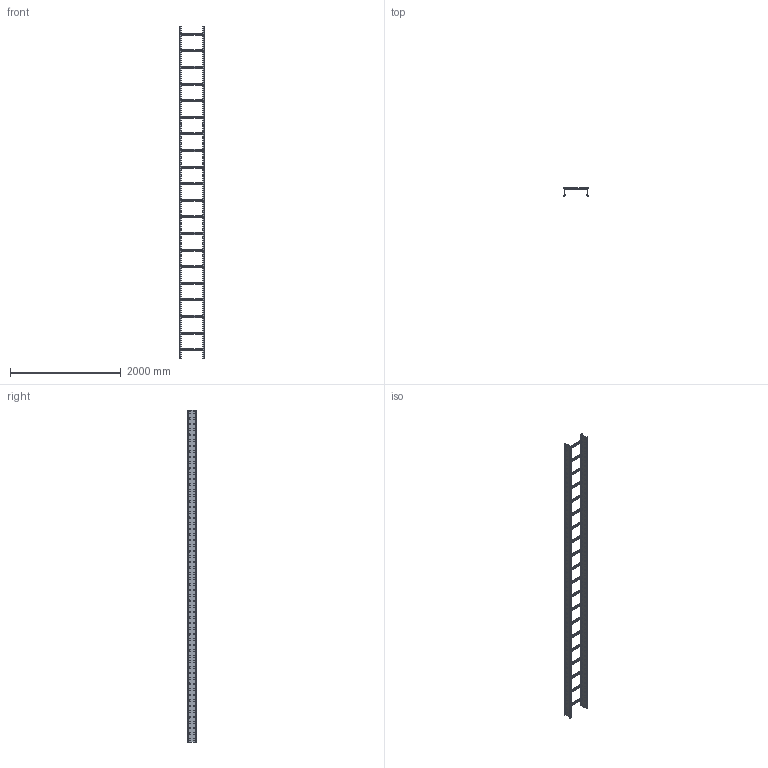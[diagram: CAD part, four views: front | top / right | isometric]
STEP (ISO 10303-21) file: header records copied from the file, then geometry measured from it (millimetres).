
FILE_DESCRIPTION(('Creo Elements/Direct Modeling STEP Export'),'2;1');
FILE_NAME('WP15-40.stp','2016-05-13T13:29:05',(''),(''),'PTC Creo Elements/Direct Modeling STEP processor for AP214 (Solid Model)','PTC Creo Elements/Direct Modeling 19.0C 15-Aug-2015 (C) Parametric Technology GmbH','');
FILE_SCHEMA(('AUTOMOTIVE_DESIGN { 1 0 10303 214 1 1 1 1 }'));
Length unit declared in the file: millimetre
Products named in the file (3): WPH150; WPSP_04; WP15-40-HDG
Assembly tree (22 placements, depth 2):
  WP15-40-HDG
    WPSP_04  x20
    WPH150  x2
Bounding box: 450 x 150 x 6000 mm (x, y, z)
Volume: 5471136.3 mm3; surface area: 6597852.4 mm2
Topology: 22 solids, 22 shells, 3372 faces, 9984 edges, 6656 vertices
Faces by surface type: plane 2132, cylinder 1240
Entity records: 24286 total; most frequent: ORIENTED_EDGE 4260, CARTESIAN_POINT 4201, DIRECTION 3739, EDGE_CURVE 2130, VECTOR 1823, LINE 1823, VERTEX_POINT 1420, EDGE_LOOP 1064
